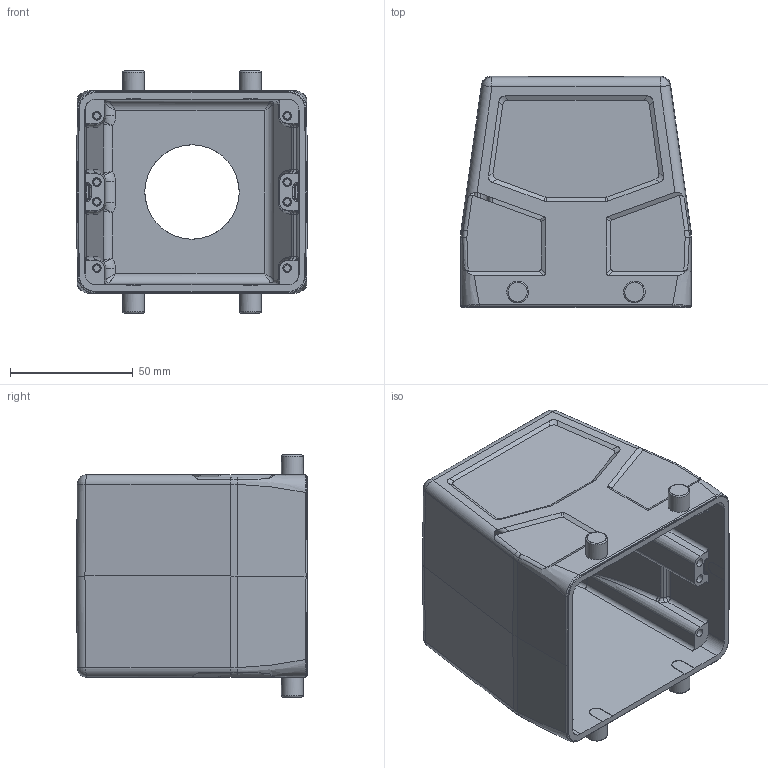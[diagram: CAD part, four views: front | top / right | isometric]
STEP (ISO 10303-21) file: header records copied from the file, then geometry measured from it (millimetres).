
FILE_DESCRIPTION (( 'STEP AP203' ), '1' );
FILE_NAME ('H32B-TG-M40.STEP', '2023-06-13T07:31:01', ( '' ), ( '' ), 'SwSTEP 2.0', 'SolidWorks 2016', '' );
FILE_SCHEMA (( 'CONFIG_CONTROL_DESIGN' ));
Length unit declared in the file: millimetre
Products named in the file (1): H32B-TG-M40
Bounding box: 94 x 94 x 98.5 mm (x, y, z)
Volume: 160502.5 mm3; surface area: 70947.9 mm2
Topology: 1 solids, 1 shells, 353 faces, 918 edges, 574 vertices
Faces by surface type: cylinder 132, plane 127, bspline 56, torus 16, cone 12, sphere 10
Full cylindrical faces by diameter (mm): 2.7 x8, 3.5 x8, 8.8 x4, 38.4 x1
Entity records: 18325 total; most frequent: CARTESIAN_POINT 10971, ORIENTED_EDGE 1742, DIRECTION 1086, EDGE_CURVE 871, VERTEX_POINT 567, EDGE_LOOP 402, B_SPLINE_CURVE_WITH_KNOTS 381, FACE_OUTER_BOUND 378
